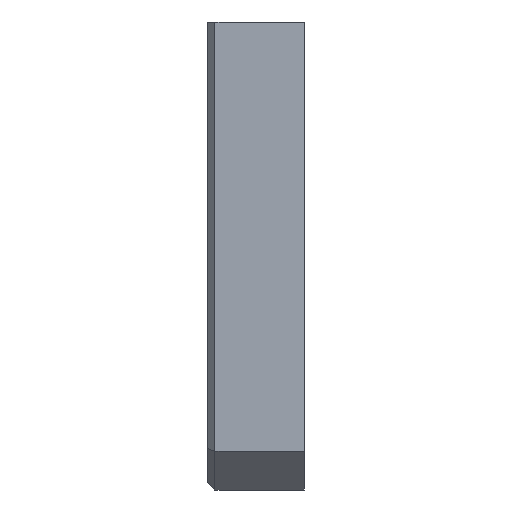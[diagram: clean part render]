
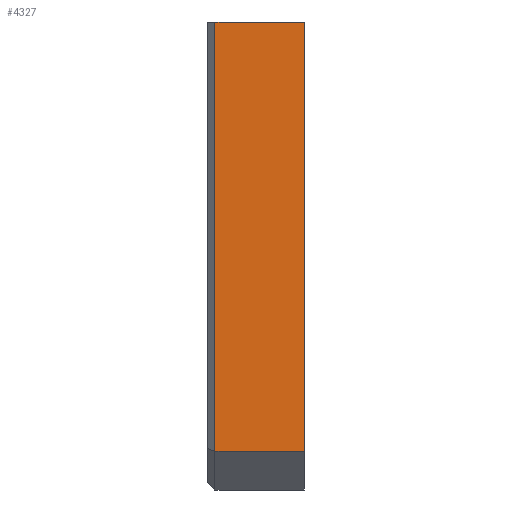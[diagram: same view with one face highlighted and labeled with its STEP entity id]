
A CAD part, left-side view. The second image highlights one B-rep face of the part: STEP entity #4327.
In plain terms, the highlighted planar face has unit normal (-1, 0, 0).
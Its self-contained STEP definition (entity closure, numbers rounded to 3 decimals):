
#10=DIRECTION('',(0.,1.,0.));
#11=VECTOR('',#10,18.5);
#12=CARTESIAN_POINT('',(-94.5,0.,-89.));
#13=LINE('',#12,#11);
#18=DIRECTION('',(0.,1.,0.));
#19=VECTOR('',#18,18.5);
#20=CARTESIAN_POINT('',(-94.5,0.,0.));
#21=LINE('',#20,#19);
#58=DIRECTION('',(0.,0.,-1.));
#59=VECTOR('',#58,89.);
#60=CARTESIAN_POINT('',(-94.5,0.,0.));
#61=LINE('',#60,#59);
#719=DIRECTION('',(0.,0.,1.));
#720=VECTOR('',#719,89.);
#721=CARTESIAN_POINT('',(-94.5,18.5,-89.));
#722=LINE('',#721,#720);
#3428=CARTESIAN_POINT('',(-94.5,18.5,-89.));
#3429=CARTESIAN_POINT('',(-94.5,18.5,0.));
#3430=VERTEX_POINT('',#3428);
#3431=VERTEX_POINT('',#3429);
#4086=CARTESIAN_POINT('',(-94.5,0.,-89.));
#4088=VERTEX_POINT('',#4086);
#4146=CARTESIAN_POINT('',(-94.5,0.,0.));
#4147=VERTEX_POINT('',#4146);
#4313=CARTESIAN_POINT('',(-94.5,20.,-97.));
#4314=DIRECTION('',(1.,0.,0.));
#4315=DIRECTION('',(0.,0.,-1.));
#4316=AXIS2_PLACEMENT_3D('',#4313,#4314,#4315);
#4317=PLANE('',#4316);
#4319=ORIENTED_EDGE('',*,*,#4318,.F.);
#4321=ORIENTED_EDGE('',*,*,#4320,.T.);
#4322=ORIENTED_EDGE('',*,*,#4303,.T.);
#4324=ORIENTED_EDGE('',*,*,#4323,.T.);
#4325=EDGE_LOOP('',(#4319,#4321,#4322,#4324));
#4326=FACE_OUTER_BOUND('',#4325,.F.);
#4327=ADVANCED_FACE('',(#4326),#4317,.F.);
#4303=EDGE_CURVE('',#4088,#3430,#13,.T.);
#4318=EDGE_CURVE('',#4147,#3431,#21,.T.);
#4320=EDGE_CURVE('',#4147,#4088,#61,.T.);
#4323=EDGE_CURVE('',#3430,#3431,#722,.T.);
